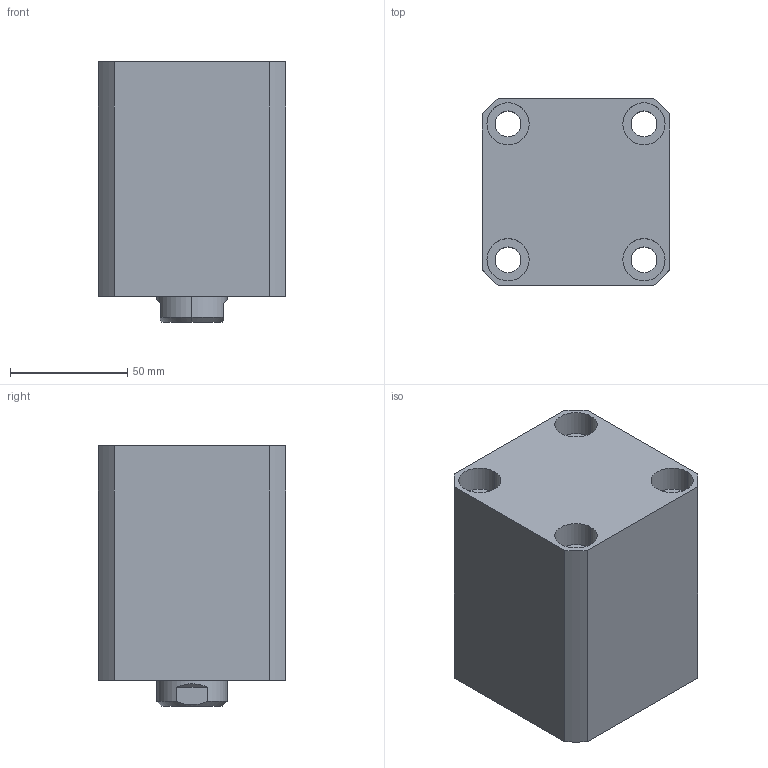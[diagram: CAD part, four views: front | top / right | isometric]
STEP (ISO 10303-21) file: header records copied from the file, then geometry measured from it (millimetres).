
FILE_DESCRIPTION (( 'STEP AP203' ), '1' );
FILE_NAME ('CHTB-SDMA50-40N.STEP', '2018-05-19T01:50:32', ( '' ), ( '' ), 'SwSTEP 2.0', 'SolidWorks 2015', '' );
FILE_SCHEMA (( 'CONFIG_CONTROL_DESIGN' ));
Length unit declared in the file: millimetre
Products named in the file (5): 活塞杆SDMA50-40N; CHTM-SDMA50QG; M6; CHTB-SDMA50-40N; 掛极SDMA50-40N
Assembly tree (5 placements, depth 2):
  CHTB-SDMA50-40N
    掛极SDMA50-40N
    活塞杆SDMA50-40N
    CHTM-SDMA50QG
    M6  x2
Bounding box: 80 x 80 x 111 mm (x, y, z)
Volume: 522296.6 mm3; surface area: 107251.1 mm2
Topology: 5 solids, 5 shells, 270 faces, 703 edges, 464 vertices
Faces by surface type: cylinder 139, plane 58, cone 31, bspline 26, torus 16
Entity records: 14133 total; most frequent: CARTESIAN_POINT 8131, ORIENTED_EDGE 1208, DIRECTION 1054, EDGE_CURVE 604, AXIS2_PLACEMENT_3D 433, VERTEX_POINT 403, EDGE_LOOP 277, FACE_OUTER_BOUND 235
